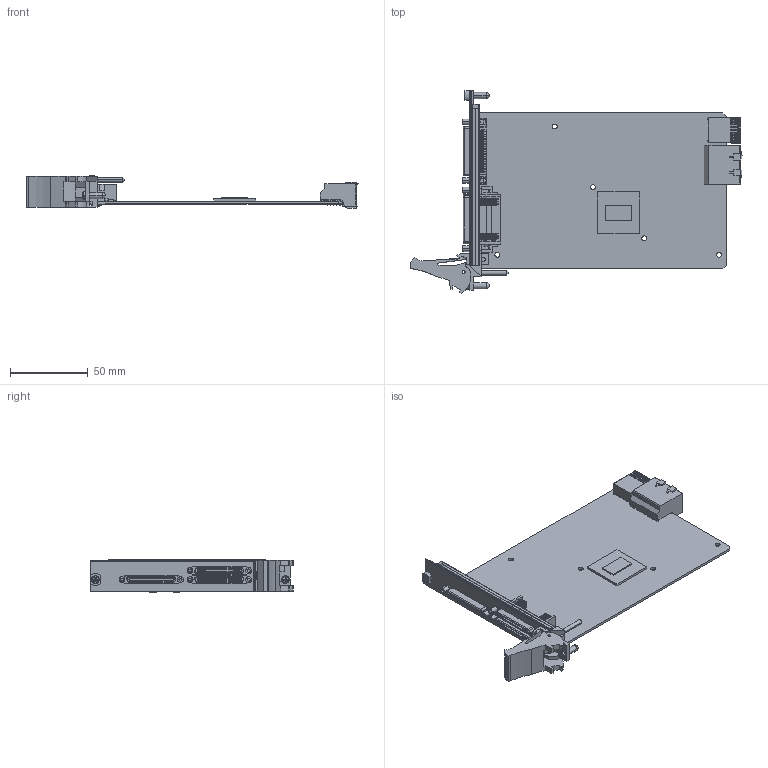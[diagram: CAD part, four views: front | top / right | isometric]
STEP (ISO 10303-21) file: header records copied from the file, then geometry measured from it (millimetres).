
FILE_DESCRIPTION((''),'2;1');
FILE_NAME('CU_PXIE_7867_68','2017-08-14T',('kleong'),(''),'CREO PARAMETRIC BY PTC INC, 2015380','CREO PARAMETRIC BY PTC INC, 2015380','');
FILE_SCHEMA(('CONFIG_CONTROL_DESIGN'));
Products named in the file (1): CU_PXIE_7867_68
Bounding box: 213.82 x 130.5 x 21.05 mm (x, y, z)
Volume: 60394.4 mm3; surface area: 63084.3 mm2
Topology: 1 solids, 5 shells, 7396 faces, 20177 edges, 13275 vertices
Faces by surface type: plane 5990, cylinder 1340, cone 36, sphere 22, torus 4, bspline 4
Entity records: 237451 total; most frequent: CARTESIAN_POINT 48504, ORIENTED_EDGE 40312, DIRECTION 36621, EDGE_CURVE 20156, VECTOR 15805, LINE 15805, VERTEX_POINT 13275, AXIS2_PLACEMENT_3D 10408
